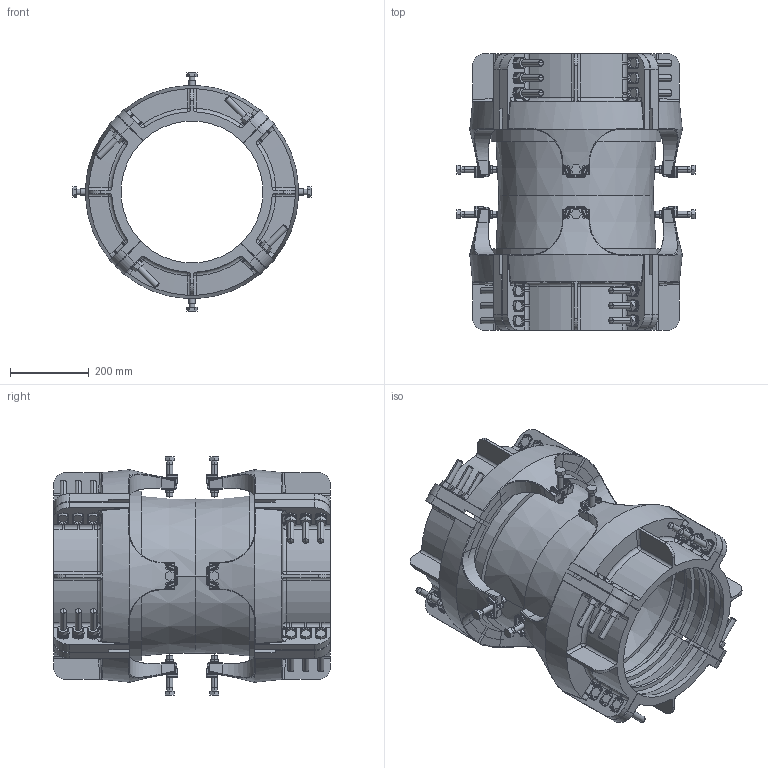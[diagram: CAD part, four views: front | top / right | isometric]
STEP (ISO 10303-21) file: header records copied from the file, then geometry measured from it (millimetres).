
FILE_DESCRIPTION((''),'2;1');
FILE_NAME('355_COUP_INST_SW0001','2017-05-08T',('mfairey'),('Glynwed Pipe Systems'),'PRO/ENGINEER BY PARAMETRIC TECHNOLOGY CORPORATION, 2006020','PRO/ENGINEER BY PARAMETRIC TECHNOLOGY CORPORATION, 2006020','');
FILE_SCHEMA(('CONFIG_CONTROL_DESIGN'));
Length unit declared in the file: millimetre
Products named in the file (1): 355_COUP_INST_SW0001
Bounding box: 603.62 x 701 x 603.62 mm (x, y, z)
Surface area: 4213533.5 mm2 (no closed solid volume)
Topology: 0 solids, 161 shells, 3686 faces, 9836 edges, 6184 vertices
Faces by surface type: cylinder 1304, plane 1178, torus 552, bspline 368, sphere 160, cone 124
Entity records: 130142 total; most frequent: CARTESIAN_POINT 40450, DIRECTION 19200, ORIENTED_EDGE 17800, EDGE_CURVE 9772, AXIS2_PLACEMENT_3D 7350, VERTEX_POINT 6184, VECTOR 4500, LINE 4500
